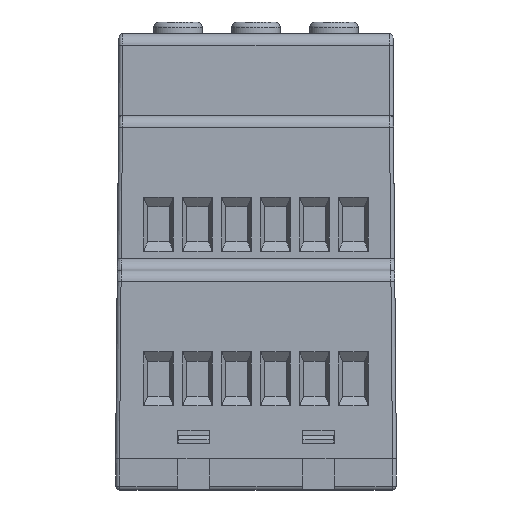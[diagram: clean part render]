
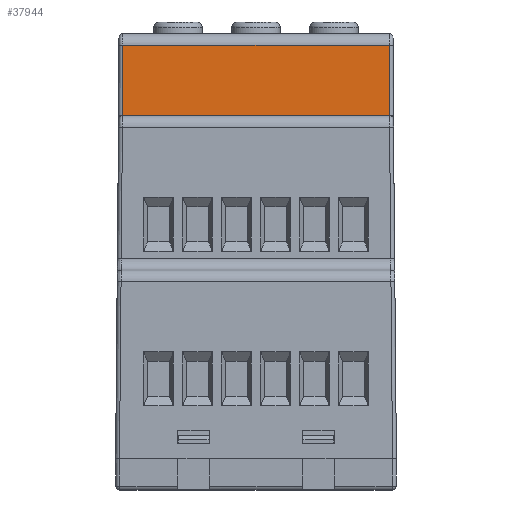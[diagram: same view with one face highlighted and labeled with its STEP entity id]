
A CAD part, front view. The second image highlights one B-rep face of the part: STEP entity #37944.
In plain terms, the highlighted planar face has unit normal (0, -1, 0.009).
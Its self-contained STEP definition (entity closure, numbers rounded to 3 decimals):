
#611 = ORIENTED_EDGE ( 'NONE', *, *, #15876, .T. ) ;
#740 = ORIENTED_EDGE ( 'NONE', *, *, #29414, .T. ) ;
#1229 = CARTESIAN_POINT ( 'NONE',  ( 18., 22.4, 48. ) ) ;
#1388 = CARTESIAN_POINT ( 'NONE',  ( 18., 22.4, 48. ) ) ;
#1659 = DIRECTION ( 'NONE',  ( 0., -1., 0.009 ) ) ;
#1908 = CARTESIAN_POINT ( 'NONE',  ( 0.861, 22.4, 48. ) ) ;
#2221 = DIRECTION ( 'NONE',  ( 1., 0., 0. ) ) ;
#2242 = VECTOR ( 'NONE', #11244, 1000. ) ;
#2788 = DIRECTION ( 'NONE',  ( 1., 0., 0. ) ) ;
#2904 = CARTESIAN_POINT ( 'NONE',  ( 7.537, 22.4, 48. ) ) ;
#3019 = CARTESIAN_POINT ( 'NONE',  ( 18., 22.4, 48. ) ) ;
#3025 = VERTEX_POINT ( 'NONE', #21083 ) ;
#3224 = LINE ( 'NONE', #27928, #6434 ) ;
#3241 = VERTEX_POINT ( 'NONE', #20244 ) ;
#4119 = VERTEX_POINT ( 'NONE', #28989 ) ;
#4452 = CARTESIAN_POINT ( 'NONE',  ( 7.465, 22.391, 47. ) ) ;
#4542 = VECTOR ( 'NONE', #29162, 1000. ) ;
#4682 = ORIENTED_EDGE ( 'NONE', *, *, #29607, .T. ) ;
#5045 = EDGE_CURVE ( 'NONE', #13709, #35156, #24959, .T. ) ;
#5111 = CARTESIAN_POINT ( 'NONE',  ( 0.929, 22.479, 57.013 ) ) ;
#6233 = DIRECTION ( 'NONE',  ( -1., 0., 0. ) ) ;
#6434 = VECTOR ( 'NONE', #6233, 1000. ) ;
#6966 = ORIENTED_EDGE ( 'NONE', *, *, #23405, .F. ) ;
#7042 = VECTOR ( 'NONE', #28368, 1000. ) ;
#7214 = CARTESIAN_POINT ( 'NONE',  ( 28.5, 22.4, 48. ) ) ;
#7421 = LINE ( 'NONE', #10638, #32208 ) ;
#7997 = ORIENTED_EDGE ( 'NONE', *, *, #36051, .T. ) ;
#8037 = ORIENTED_EDGE ( 'NONE', *, *, #27435, .T. ) ;
#8139 = CARTESIAN_POINT ( 'NONE',  ( 28.535, 22.391, 47. ) ) ;
#8814 = LINE ( 'NONE', #38721, #15831 ) ;
#10050 = DIRECTION ( 'NONE',  ( 1., 0., 0. ) ) ;
#10484 = ORIENTED_EDGE ( 'NONE', *, *, #12652, .T. ) ;
#10530 = VERTEX_POINT ( 'NONE', #5111 ) ;
#10638 = CARTESIAN_POINT ( 'NONE',  ( 34.5, 22.391, 47. ) ) ;
#10797 = CARTESIAN_POINT ( 'NONE',  ( 0.851, 22.401, 48.15 ) ) ;
#10882 = VERTEX_POINT ( 'NONE', #18981 ) ;
#11192 = CARTESIAN_POINT ( 'NONE',  ( 18., 22.4, 48. ) ) ;
#11244 = DIRECTION ( 'NONE',  ( 0.035, -0.009, -0.999 ) ) ;
#11251 = ORIENTED_EDGE ( 'NONE', *, *, #13681, .F. ) ;
#11342 = B_SPLINE_CURVE_WITH_KNOTS ( 'NONE', 3,
 ( #32425, #1908, #32835, #23597 ),
 .UNSPECIFIED., .F., .F.,
 ( 4, 4 ),
 ( 0., 0.009 ),
 .UNSPECIFIED. ) ;
#11425 = DIRECTION ( 'NONE',  ( -1., 0., 0. ) ) ;
#11446 = LINE ( 'NONE', #17690, #17086 ) ;
#11507 = EDGE_CURVE ( 'NONE', #10530, #4119, #14218, .T. ) ;
#11970 = EDGE_CURVE ( 'NONE', #3025, #28492, #18013, .T. ) ;
#12180 = CARTESIAN_POINT ( 'NONE',  ( 4.5, 22.4, 48. ) ) ;
#12341 = CARTESIAN_POINT ( 'NONE',  ( 7.5, 22.4, 48. ) ) ;
#12462 = CARTESIAN_POINT ( 'NONE',  ( 31.537, 22.4, 48. ) ) ;
#12652 = EDGE_CURVE ( 'NONE', #19539, #14927, #11446, .T. ) ;
#13681 = EDGE_CURVE ( 'NONE', #23968, #33205, #3224, .T. ) ;
#13709 = VERTEX_POINT ( 'NONE', #12462 ) ;
#13996 = CARTESIAN_POINT ( 'NONE',  ( 18., 22.4, 48. ) ) ;
#14175 = EDGE_CURVE ( 'NONE', #23835, #20897, #22080, .T. ) ;
#14186 = CARTESIAN_POINT ( 'NONE',  ( 31.465, 22.391, 47. ) ) ;
#14218 = LINE ( 'NONE', #10797, #20358 ) ;
#14400 = DIRECTION ( 'NONE',  ( 1., 0., 0. ) ) ;
#14803 = LINE ( 'NONE', #13996, #19438 ) ;
#14927 = VERTEX_POINT ( 'NONE', #22674 ) ;
#15749 = ORIENTED_EDGE ( 'NONE', *, *, #16299, .T. ) ;
#15831 = VECTOR ( 'NONE', #21069, 1000. ) ;
#15876 = EDGE_CURVE ( 'NONE', #36267, #33205, #35552, .T. ) ;
#15943 = ORIENTED_EDGE ( 'NONE', *, *, #33886, .T. ) ;
#16299 = EDGE_CURVE ( 'NONE', #23835, #23773, #39103, .T. ) ;
#16327 = ORIENTED_EDGE ( 'NONE', *, *, #11507, .T. ) ;
#16343 = ORIENTED_EDGE ( 'NONE', *, *, #11970, .T. ) ;
#16351 = PLANE ( 'NONE',  #20598 ) ;
#17086 = VECTOR ( 'NONE', #32144, 1000. ) ;
#17101 = EDGE_CURVE ( 'NONE', #23773, #10882, #19886, .T. ) ;
#17155 = VECTOR ( 'NONE', #34914, 1000. ) ;
#17389 = CARTESIAN_POINT ( 'NONE',  ( 35.15, 22.401, 48. ) ) ;
#17614 = DIRECTION ( 'NONE',  ( -0.035, -0.009, -0.999 ) ) ;
#17632 = DIRECTION ( 'NONE',  ( 1., 0., 0. ) ) ;
#17690 = CARTESIAN_POINT ( 'NONE',  ( 35.058, 22.492, 58.496 ) ) ;
#17802 = ORIENTED_EDGE ( 'NONE', *, *, #14175, .F. ) ;
#18013 = B_SPLINE_CURVE_WITH_KNOTS ( 'NONE', 3,
 ( #35597, #20343, #22955, #38203 ),
 .UNSPECIFIED., .F., .F.,
 ( 4, 4 ),
 ( 0.99, 1. ),
 .UNSPECIFIED. ) ;
#18981 = CARTESIAN_POINT ( 'NONE',  ( 28.463, 22.4, 48. ) ) ;
#19029 = EDGE_CURVE ( 'NONE', #39658, #3025, #22476, .T. ) ;
#19377 = CARTESIAN_POINT ( 'NONE',  ( 18., 22.4, 48. ) ) ;
#19438 = VECTOR ( 'NONE', #14400, 1000. ) ;
#19539 = VERTEX_POINT ( 'NONE', #17389 ) ;
#19849 = LINE ( 'NONE', #11192, #28865 ) ;
#19886 = LINE ( 'NONE', #1229, #36956 ) ;
#20244 = CARTESIAN_POINT ( 'NONE',  ( 4.535, 22.391, 47. ) ) ;
#20343 = CARTESIAN_POINT ( 'NONE',  ( 4.475, 22.4, 48. ) ) ;
#20358 = VECTOR ( 'NONE', #22475, 1000. ) ;
#20598 = AXIS2_PLACEMENT_3D ( 'NONE', #19377, #1659, #37617 ) ;
#20897 = VERTEX_POINT ( 'NONE', #4452 ) ;
#21069 = DIRECTION ( 'NONE',  ( -1., 0., 0. ) ) ;
#21083 = CARTESIAN_POINT ( 'NONE',  ( 4.463, 22.4, 48. ) ) ;
#21700 = ORIENTED_EDGE ( 'NONE', *, *, #5045, .T. ) ;
#22080 = LINE ( 'NONE', #22667, #32744 ) ;
#22475 = DIRECTION ( 'NONE',  ( -0.009, -0.009, -1. ) ) ;
#22476 = LINE ( 'NONE', #1388, #17155 ) ;
#22667 = CARTESIAN_POINT ( 'NONE',  ( 7.513, 22.403, 48.366 ) ) ;
#22674 = CARTESIAN_POINT ( 'NONE',  ( 35.071, 22.479, 57.013 ) ) ;
#22955 = CARTESIAN_POINT ( 'NONE',  ( 4.488, 22.4, 48. ) ) ;
#23405 = EDGE_CURVE ( 'NONE', #24050, #23968, #38872, .T. ) ;
#23448 = CARTESIAN_POINT ( 'NONE',  ( 31.5, 22.4, 48. ) ) ;
#23567 = CARTESIAN_POINT ( 'NONE',  ( 35.12, 22.4, 48. ) ) ;
#23597 = CARTESIAN_POINT ( 'NONE',  ( 0.882, 22.4, 48. ) ) ;
#23773 = VERTEX_POINT ( 'NONE', #2904 ) ;
#23835 = VERTEX_POINT ( 'NONE', #12341 ) ;
#23968 = VERTEX_POINT ( 'NONE', #14186 ) ;
#24050 = VERTEX_POINT ( 'NONE', #23448 ) ;
#24823 = ORIENTED_EDGE ( 'NONE', *, *, #29067, .F. ) ;
#24959 = LINE ( 'NONE', #33787, #7042 ) ;
#26844 = CARTESIAN_POINT ( 'NONE',  ( 31.514, 22.403, 48.394 ) ) ;
#27435 = EDGE_CURVE ( 'NONE', #28492, #3241, #38984, .T. ) ;
#27749 = ORIENTED_EDGE ( 'NONE', *, *, #19029, .T. ) ;
#27928 = CARTESIAN_POINT ( 'NONE',  ( 34.5, 22.391, 47. ) ) ;
#28368 = DIRECTION ( 'NONE',  ( 1., 0., 0. ) ) ;
#28492 = VERTEX_POINT ( 'NONE', #12180 ) ;
#28533 = VECTOR ( 'NONE', #2788, 1000. ) ;
#28865 = VECTOR ( 'NONE', #17632, 1000. ) ;
#28989 = CARTESIAN_POINT ( 'NONE',  ( 0.85, 22.401, 48. ) ) ;
#29067 = EDGE_CURVE ( 'NONE', #20897, #3241, #7421, .T. ) ;
#29162 = DIRECTION ( 'NONE',  ( 0.035, -0.009, -0.999 ) ) ;
#29167 = FACE_OUTER_BOUND ( 'NONE', #31098, .T. ) ;
#29414 = EDGE_CURVE ( 'NONE', #10882, #36267, #14803, .T. ) ;
#29607 = EDGE_CURVE ( 'NONE', #4119, #39658, #11342, .T. ) ;
#30826 = CARTESIAN_POINT ( 'NONE',  ( 0.882, 22.4, 48. ) ) ;
#31098 = EDGE_LOOP ( 'NONE', ( #24823, #17802, #15749, #38854, #740, #611, #11251, #6966, #7997, #21700, #34391, #10484, #15943, #16327, #4682, #27749, #16343, #8037 ) ) ;
#32144 = DIRECTION ( 'NONE',  ( -0.009, 0.009, 1. ) ) ;
#32208 = VECTOR ( 'NONE', #11425, 1000. ) ;
#32425 = CARTESIAN_POINT ( 'NONE',  ( 0.85, 22.401, 48. ) ) ;
#32531 = CARTESIAN_POINT ( 'NONE',  ( 28.486, 22.403, 48.394 ) ) ;
#32744 = VECTOR ( 'NONE', #37520, 1000. ) ;
#32835 = CARTESIAN_POINT ( 'NONE',  ( 0.871, 22.4, 48. ) ) ;
#33132 = LINE ( 'NONE', #3019, #35257 ) ;
#33205 = VERTEX_POINT ( 'NONE', #8139 ) ;
#33787 = CARTESIAN_POINT ( 'NONE',  ( 18., 22.4, 48. ) ) ;
#33886 = EDGE_CURVE ( 'NONE', #14927, #10530, #8814, .T. ) ;
#34391 = ORIENTED_EDGE ( 'NONE', *, *, #38964, .T. ) ;
#34744 = VECTOR ( 'NONE', #17614, 1000. ) ;
#34914 = DIRECTION ( 'NONE',  ( 1., 0., 0. ) ) ;
#35156 = VERTEX_POINT ( 'NONE', #23567 ) ;
#35257 = VECTOR ( 'NONE', #2221, 1000. ) ;
#35552 = LINE ( 'NONE', #32531, #2242 ) ;
#35597 = CARTESIAN_POINT ( 'NONE',  ( 4.463, 22.4, 48. ) ) ;
#35777 = CARTESIAN_POINT ( 'NONE',  ( 4.516, 22.396, 47.529 ) ) ;
#36051 = EDGE_CURVE ( 'NONE', #24050, #13709, #33132, .T. ) ;
#36267 = VERTEX_POINT ( 'NONE', #7214 ) ;
#36498 = CARTESIAN_POINT ( 'NONE',  ( 18., 22.4, 48. ) ) ;
#36956 = VECTOR ( 'NONE', #10050, 1000. ) ;
#37520 = DIRECTION ( 'NONE',  ( -0.035, -0.009, -0.999 ) ) ;
#37617 = DIRECTION ( 'NONE',  ( 0., -0.009, -1. ) ) ;
#37944 = ADVANCED_FACE ( 'NONE', ( #29167 ), #16351, .T. ) ;
#38203 = CARTESIAN_POINT ( 'NONE',  ( 4.5, 22.4, 48. ) ) ;
#38721 = CARTESIAN_POINT ( 'NONE',  ( 18., 22.479, 57.013 ) ) ;
#38854 = ORIENTED_EDGE ( 'NONE', *, *, #17101, .T. ) ;
#38872 = LINE ( 'NONE', #26844, #34744 ) ;
#38964 = EDGE_CURVE ( 'NONE', #35156, #19539, #19849, .T. ) ;
#38984 = LINE ( 'NONE', #35777, #4542 ) ;
#39103 = LINE ( 'NONE', #36498, #28533 ) ;
#39658 = VERTEX_POINT ( 'NONE', #30826 ) ;
